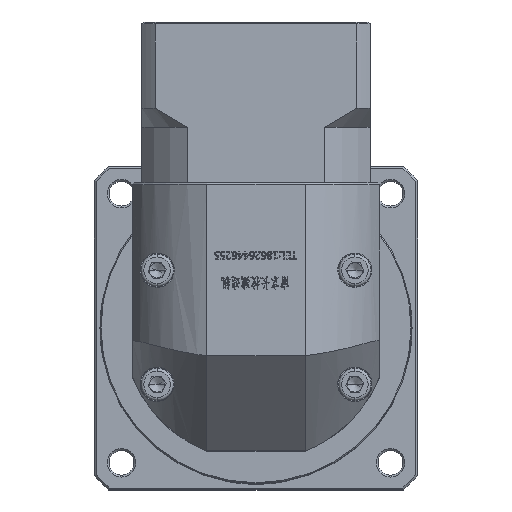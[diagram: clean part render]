
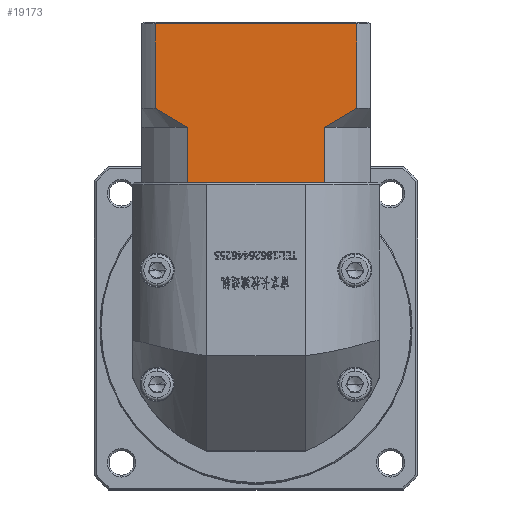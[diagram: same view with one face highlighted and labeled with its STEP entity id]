
A CAD part, top view. The second image highlights one B-rep face of the part: STEP entity #19173.
In plain terms, the highlighted planar face has unit normal (0, 0, 1).
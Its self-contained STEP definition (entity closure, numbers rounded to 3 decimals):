
#1753 = VERTEX_POINT ( 'NONE', #136617 ) ;
#5169 = DIRECTION ( 'NONE',  ( 0., 1., 0. ) ) ;
#13440 = EDGE_CURVE ( 'NONE', #116370, #15894, #14277, .T. ) ;
#14277 = LINE ( 'NONE', #137005, #49423 ) ;
#14900 = EDGE_LOOP ( 'NONE', ( #33015, #146679, #35203, #98155, #53715, #163404, #16383, #146653, #85668, #99676 ) ) ;
#15894 = VERTEX_POINT ( 'NONE', #138683 ) ;
#16383 = ORIENTED_EDGE ( 'NONE', *, *, #126233, .T. ) ;
#19173 = ADVANCED_FACE ( 'NONE', ( #118850 ), #183509, .F. ) ;
#22656 = VERTEX_POINT ( 'NONE', #182141 ) ;
#25019 = CARTESIAN_POINT ( 'NONE',  ( -54.522, 86.267, 52.58 ) ) ;
#28185 = DIRECTION ( 'NONE',  ( 0., 1., 0. ) ) ;
#31602 = CARTESIAN_POINT ( 'NONE',  ( -94.917, 87.068, 52.58 ) ) ;
#33015 = ORIENTED_EDGE ( 'NONE', *, *, #62636, .F. ) ;
#33031 = EDGE_CURVE ( 'NONE', #182055, #161198, #51424, .T. ) ;
#35203 = ORIENTED_EDGE ( 'NONE', *, *, #130194, .F. ) ;
#36691 = VECTOR ( 'NONE', #28185, 1000. ) ;
#37470 = VECTOR ( 'NONE', #81870, 1000. ) ;
#37567 = DIRECTION ( 'NONE',  ( 1., 0., 0. ) ) ;
#40103 = CARTESIAN_POINT ( 'NONE',  ( -50.291, 88.742, 52.58 ) ) ;
#42759 = VECTOR ( 'NONE', #84619, 1000. ) ;
#46693 = CARTESIAN_POINT ( 'NONE',  ( -92.034, 85.517, 52.58 ) ) ;
#47067 = CARTESIAN_POINT ( 'NONE',  ( -92.034, 85.517, 52.58 ) ) ;
#48252 = DIRECTION ( 'NONE',  ( -1., 0., 0. ) ) ;
#48315 = CARTESIAN_POINT ( 'NONE',  ( -55.978, 71.017, 52.58 ) ) ;
#48576 = CARTESIAN_POINT ( 'NONE',  ( -91.043, 71.017, 52.58 ) ) ;
#49234 = EDGE_CURVE ( 'NONE', #156166, #172627, #117095, .T. ) ;
#49423 = VECTOR ( 'NONE', #48252, 1000. ) ;
#51424 = LINE ( 'NONE', #88734, #91107 ) ;
#53715 = ORIENTED_EDGE ( 'NONE', *, *, #49234, .F. ) ;
#54611 = CARTESIAN_POINT ( 'NONE',  ( -47.549, 85.517, 52.58 ) ) ;
#55126 = CARTESIAN_POINT ( 'NONE',  ( -47.549, 90.517, 52.58 ) ) ;
#62636 = EDGE_CURVE ( 'NONE', #116370, #22656, #157201, .T. ) ;
#69992 = VERTEX_POINT ( 'NONE', #111182 ) ;
#77269 = VECTOR ( 'NONE', #103475, 1000. ) ;
#78300 = EDGE_CURVE ( 'NONE', #1753, #172627, #123631, .T. ) ;
#81870 = DIRECTION ( 'NONE',  ( 0., -1., 0. ) ) ;
#83498 = DIRECTION ( 'NONE',  ( 1., 0., 0. ) ) ;
#84619 = DIRECTION ( 'NONE',  ( 0., -1., 0. ) ) ;
#85668 = ORIENTED_EDGE ( 'NONE', *, *, #177834, .F. ) ;
#87304 = CARTESIAN_POINT ( 'NONE',  ( -56.969, 71.017, 52.58 ) ) ;
#88100 = DIRECTION ( 'NONE',  ( 1., 0., 0. ) ) ;
#88734 = CARTESIAN_POINT ( 'NONE',  ( -104.006, 71.017, 52.58 ) ) ;
#91082 = CARTESIAN_POINT ( 'NONE',  ( -100.464, 90.517, 52.58 ) ) ;
#91107 = VECTOR ( 'NONE', #88100, 1000. ) ;
#94808 = DIRECTION ( 'NONE',  ( 0., 0., -1. ) ) ;
#98155 = ORIENTED_EDGE ( 'NONE', *, *, #78300, .T. ) ;
#99676 = ORIENTED_EDGE ( 'NONE', *, *, #116146, .T. ) ;
#103475 = DIRECTION ( 'NONE',  ( 0., 1., 0. ) ) ;
#104622 = CARTESIAN_POINT ( 'NONE',  ( -47.549, 112.717, 52.58 ) ) ;
#111182 = CARTESIAN_POINT ( 'NONE',  ( -55.978, 85.517, 52.58 ) ) ;
#113565 = LINE ( 'NONE', #127006, #188220 ) ;
#116146 = EDGE_CURVE ( 'NONE', #69992, #22656, #187785, .T. ) ;
#116370 = VERTEX_POINT ( 'NONE', #104622 ) ;
#116968 = LINE ( 'NONE', #171327, #37470 ) ;
#117095 = LINE ( 'NONE', #192839, #77269 ) ;
#117752 = CARTESIAN_POINT ( 'NONE',  ( -100.464, 85.517, 52.58 ) ) ;
#118850 = FACE_OUTER_BOUND ( 'NONE', #14900, .T. ) ;
#121102 = CARTESIAN_POINT ( 'NONE',  ( -97.725, 88.744, 52.58 ) ) ;
#123631 = B_SPLINE_CURVE_WITH_KNOTS ( 'NONE', 3,
 ( #91082, #180429, #121102, #31602, #136079, #46693 ),
 .UNSPECIFIED., .F., .F.,
 ( 4, 2, 4 ),
 ( 0.052, 0.057, 0.062 ),
 .UNSPECIFIED. ) ;
#126233 = EDGE_CURVE ( 'NONE', #168078, #182055, #164766, .T. ) ;
#127006 = CARTESIAN_POINT ( 'NONE',  ( -104.006, 71.017, 52.58 ) ) ;
#129549 = CARTESIAN_POINT ( 'NONE',  ( -53.096, 87.067, 52.58 ) ) ;
#130194 = EDGE_CURVE ( 'NONE', #1753, #15894, #151159, .T. ) ;
#136079 = CARTESIAN_POINT ( 'NONE',  ( -93.486, 86.265, 52.58 ) ) ;
#136617 = CARTESIAN_POINT ( 'NONE',  ( -100.464, 90.517, 52.58 ) ) ;
#137005 = CARTESIAN_POINT ( 'NONE',  ( -104.006, 112.717, 52.58 ) ) ;
#138260 = AXIS2_PLACEMENT_3D ( 'NONE', #184176, #94808, #5169 ) ;
#138683 = CARTESIAN_POINT ( 'NONE',  ( -100.464, 112.717, 52.58 ) ) ;
#144538 = CARTESIAN_POINT ( 'NONE',  ( -48.911, 89.616, 52.58 ) ) ;
#145392 = EDGE_CURVE ( 'NONE', #156166, #168078, #113565, .T. ) ;
#146653 = ORIENTED_EDGE ( 'NONE', *, *, #33031, .T. ) ;
#146679 = ORIENTED_EDGE ( 'NONE', *, *, #13440, .T. ) ;
#151159 = LINE ( 'NONE', #117752, #36691 ) ;
#156166 = VERTEX_POINT ( 'NONE', #190635 ) ;
#157201 = LINE ( 'NONE', #54611, #42759 ) ;
#160165 = VECTOR ( 'NONE', #83498, 1000. ) ;
#161198 = VERTEX_POINT ( 'NONE', #48315 ) ;
#163404 = ORIENTED_EDGE ( 'NONE', *, *, #145392, .T. ) ;
#164766 = LINE ( 'NONE', #187898, #160165 ) ;
#168078 = VERTEX_POINT ( 'NONE', #48576 ) ;
#171327 = CARTESIAN_POINT ( 'NONE',  ( -55.978, 85.517, 52.58 ) ) ;
#172627 = VERTEX_POINT ( 'NONE', #47067 ) ;
#173910 = CARTESIAN_POINT ( 'NONE',  ( -55.978, 85.517, 52.58 ) ) ;
#177834 = EDGE_CURVE ( 'NONE', #69992, #161198, #116968, .T. ) ;
#180429 = CARTESIAN_POINT ( 'NONE',  ( -99.104, 89.617, 52.58 ) ) ;
#182055 = VERTEX_POINT ( 'NONE', #87304 ) ;
#182141 = CARTESIAN_POINT ( 'NONE',  ( -47.549, 90.517, 52.58 ) ) ;
#183509 = PLANE ( 'NONE',  #138260 ) ;
#184176 = CARTESIAN_POINT ( 'NONE',  ( -104.006, 113.217, 52.58 ) ) ;
#187785 = B_SPLINE_CURVE_WITH_KNOTS ( 'NONE', 3,
 ( #173910, #25019, #129549, #40103, #144538, #55126 ),
 .UNSPECIFIED., .F., .F.,
 ( 4, 2, 4 ),
 ( 0.1, 0.104, 0.109 ),
 .UNSPECIFIED. ) ;
#187898 = CARTESIAN_POINT ( 'NONE',  ( -104.006, 71.017, 52.58 ) ) ;
#188220 = VECTOR ( 'NONE', #37567, 1000. ) ;
#190635 = CARTESIAN_POINT ( 'NONE',  ( -92.034, 71.017, 52.58 ) ) ;
#192839 = CARTESIAN_POINT ( 'NONE',  ( -92.034, 85.517, 52.58 ) ) ;
